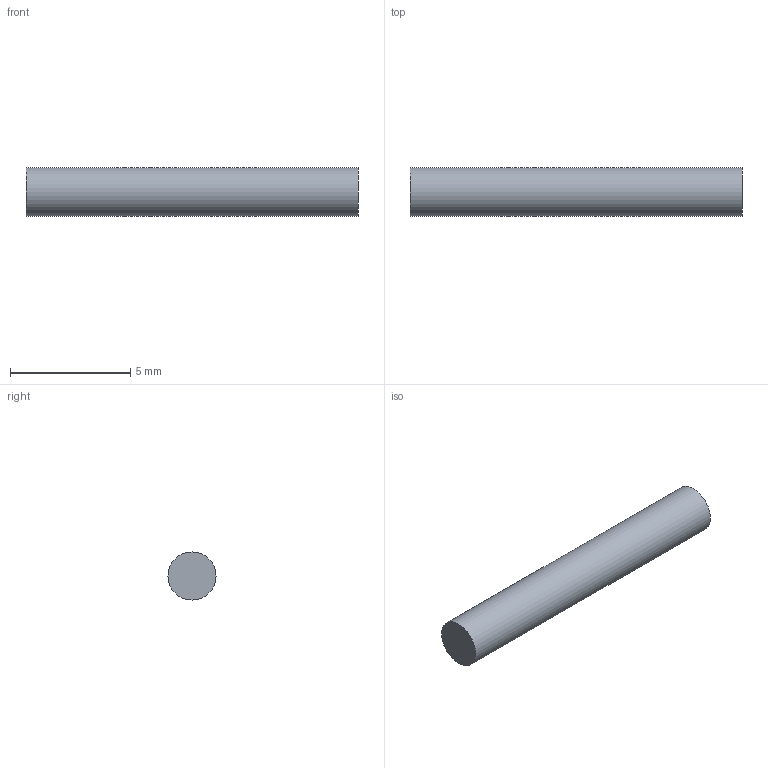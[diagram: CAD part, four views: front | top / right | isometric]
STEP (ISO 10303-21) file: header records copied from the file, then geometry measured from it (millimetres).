
FILE_DESCRIPTION(('Open CASCADE Model'),'2;1');
FILE_NAME('Open CASCADE Shape Model','2026-10-16T20:10:46',('Author'),( 'Open CASCADE'),'Open CASCADE STEP processor 7.9','Open CASCADE 7.9' ,'Unknown');
FILE_SCHEMA(('AUTOMOTIVE_DESIGN { 1 0 10303 214 1 1 1 1 }'));
Length unit declared in the file: millimetre
Products named in the file (1): Open CASCADE STEP translator 7.9 62
Bounding box: 13.8 x 2 x 2 mm (x, y, z)
Volume: 43.4 mm3; surface area: 93 mm2
Topology: 1 solids, 1 shells, 3 faces, 3 edges, 2 vertices
Faces by surface type: plane 2, cylinder 1
Full cylindrical faces by diameter (mm): 2 x1
Entity records: 114 total; most frequent: CARTESIAN_POINT 27, DIRECTION 17, AXIS2_PLACEMENT_3D 6, ORIENTED_EDGE 6, PCURVE 6, DEFINITIONAL_REPRESENTATION 6, LINE 5, VECTOR 5
